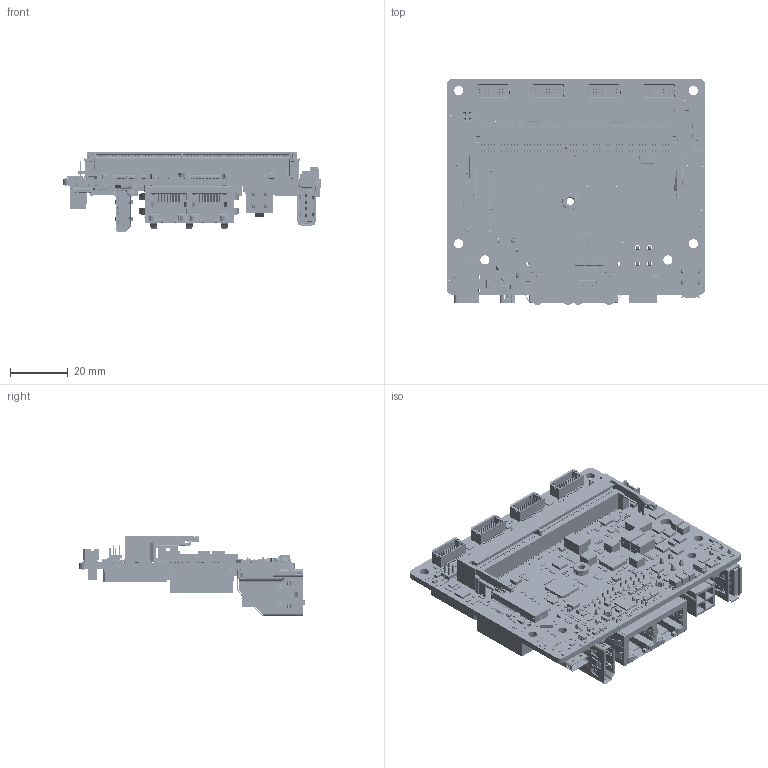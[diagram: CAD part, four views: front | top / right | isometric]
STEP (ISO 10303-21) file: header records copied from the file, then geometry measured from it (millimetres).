
FILE_DESCRIPTION(('Open CASCADE Model'),'2;1');
FILE_NAME('Open CASCADE Shape Model','2023-12-04T11:02:13',('Author'),( 'Open CASCADE'),'Open CASCADE STEP processor 7.5','Open CASCADE 7.5' ,'Unknown');
FILE_SCHEMA(('AUTOMOTIVE_DESIGN { 1 0 10303 214 1 1 1 1 }'));
Length unit declared in the file: millimetre
Products named in the file (972): PCB; Board; Open CASCADE STEP translator 7.5 4.1.1; R183; 6663386064; Extruded; 6663386304; R182; R181; R180; Q22; 6521605520; Body; Open CASCADE STEP translator 6.8 12.1.1; Leader; Q21; 6521616480; R179; 6662405216; 6662405056; J2; [Samtec]TMM-102-02-L-S; C21; 6663385504; 6663385344; U17B; 6661312864; U17A; U2B; 7820773552; U2A; R178B; R178A; R176B; R176A; R7B; R7A; C34B; C34A; C33B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
Assembly tree (2692 placements, depth 5):
  PCB
    Board
      Open CASCADE STEP translator 7.5 4.1.1
    R183
      6663386064
        Extruded
      6663386304  x2
        Extruded
    R182
      6663386064
        Extruded
      6663386304  x2
        Extruded
    R181
      6663386064
        Extruded
      6663386304  x2
        Extruded
    R180
      6663386064
        Extruded
      6663386304  x2
        Extruded
    Q22
      6521605520
        Body
          Open CASCADE STEP translator 6.8 12.1.1
        Leader  x3
    Q21
      6521616480
        Body
          Open CASCADE STEP translator 6.8 12.1.1
        Leader  x3
    R179
      6662405216
        Extruded
      6662405056  x2
        Extruded
    J2
      [Samtec]TMM-102-02-L-S
    C21
      6663385504
        Extruded
      6663385344  x2
        Extruded
    U17B
      6661312864
        Extruded
    U17A
      6661312864
        Extruded
    U2B
      7820773552
        Extruded
    U2A
      7820773552
        Extruded
    R178B
      6663386064
        Extruded
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Bounding box: 90 x 78.5 x 27.75 mm (x, y, z)
Volume: 31348.8 mm3; surface area: 51880.5 mm2
Topology: 2100 solids, 2129 shells, 45675 faces, 115161 edges, 74352 vertices
Faces by surface type: plane 33241, cylinder 8461, bspline 3631, sphere 184, cone 118, torus 40
Full cylindrical faces by diameter (mm): 0.102 x5, 0.155 x1, 0.206 x1, 0.325 x1, 0.33 x13, 0.388 x1, 0.4 x20, 0.5 x7, 0.55 x19, 0.7 x10, 0.762 x1, 0.8 x4, 0.89 x2, 0.91 x20, 1.02 x8, 1.1 x3, 1.125 x1, 1.57 x2, 1.6 x3, 1.7 x2, 1.8 x4, 3.174 x6, 3.2 x2, 4.22 x2, 5.56 x1
Entity records: 658135 total; most frequent: CARTESIAN_POINT 129212, ORIENTED_EDGE 102603, DIRECTION 101937, EDGE_CURVE 51304, LINE 40395, VECTOR 40395, VERTEX_POINT 33607, AXIS2_PLACEMENT_3D 30771
